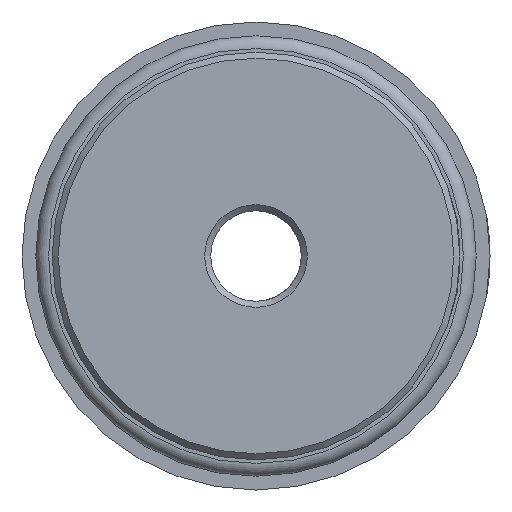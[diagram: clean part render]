
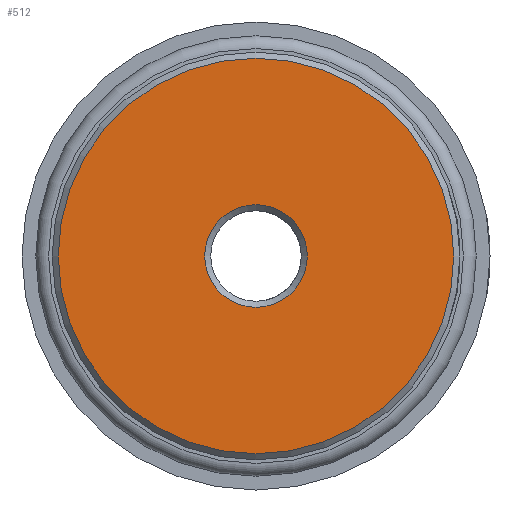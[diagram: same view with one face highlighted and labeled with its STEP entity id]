
A CAD part, left-side view. The second image highlights one B-rep face of the part: STEP entity #512.
In plain terms, the highlighted planar face has unit normal (-1, 0, 0).
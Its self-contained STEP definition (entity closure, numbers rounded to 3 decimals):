
#512 = ADVANCED_FACE( 'NONE', ( #1100, #1101 ), #1102, .F. );
#1100 = FACE_OUTER_BOUND( '', #1781, .T. );
#1101 = FACE_BOUND( '', #1782, .T. );
#1102 = PLANE( '', #1783 );
#1781 = EDGE_LOOP( '', ( #2817 ) );
#1782 = EDGE_LOOP( '', ( #2818 ) );
#1783 = AXIS2_PLACEMENT_3D( '', #2819, #2820, #2821 );
#2817 = ORIENTED_EDGE( '', *, *, #3747, .T. );
#2818 = ORIENTED_EDGE( '', *, *, #3648, .T. );
#2819 = CARTESIAN_POINT( '', ( 0., 1.5, 0. ) );
#2820 = DIRECTION( '', ( 1., 0., 0. ) );
#2821 = DIRECTION( '', ( 0., 1., 0. ) );
#3648 = EDGE_CURVE( 'NONE', #4286, #4286, #4287, .T. );
#3747 = EDGE_CURVE( 'NONE', #4429, #4429, #4430, .F. );
#4286 = VERTEX_POINT( '', #5134 );
#4287 = CIRCLE( '', #5135, 1.7 );
#4429 = VERTEX_POINT( '', #5325 );
#4430 = CIRCLE( '', #5326, 6.55 );
#5134 = CARTESIAN_POINT( '', ( 0., 0., -1.7 ) );
#5135 = AXIS2_PLACEMENT_3D( '', #5943, #5944, #5945 );
#5325 = CARTESIAN_POINT( '', ( 0., 0., -6.55 ) );
#5326 = AXIS2_PLACEMENT_3D( '', #6118, #6119, #6120 );
#5943 = CARTESIAN_POINT( '', ( 0., 0., 0. ) );
#5944 = DIRECTION( '', ( 1., 0., 0. ) );
#5945 = DIRECTION( '', ( 0., 0., -1. ) );
#6118 = CARTESIAN_POINT( '', ( 0., 0., 0. ) );
#6119 = DIRECTION( '', ( 1., 0., 0. ) );
#6120 = DIRECTION( '', ( 0., 0., -1. ) );
